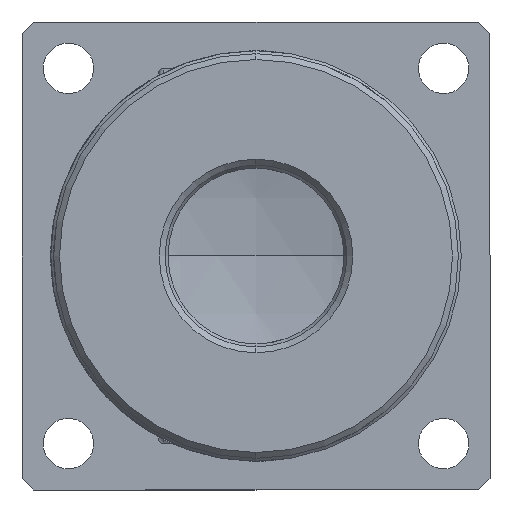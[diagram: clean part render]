
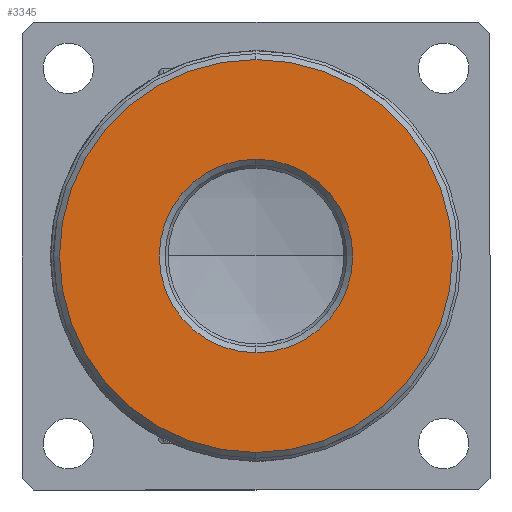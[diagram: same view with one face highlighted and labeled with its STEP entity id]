
A CAD part, left-side view. The second image highlights one B-rep face of the part: STEP entity #3345.
In plain terms, the highlighted planar face has unit normal (-1, 0, 0).
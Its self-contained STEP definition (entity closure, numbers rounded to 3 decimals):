
#536 = EDGE_CURVE ( 'NONE', #7514, #5807, #5223, .T. ) ;
#589 = VERTEX_POINT ( 'NONE', #3631 ) ;
#743 = DIRECTION ( 'NONE',  ( 1., 0., 0. ) ) ;
#1077 = FACE_OUTER_BOUND ( 'NONE', #2057, .T. ) ;
#1442 = AXIS2_PLACEMENT_3D ( 'NONE', #5382, #743, #6172 ) ;
#1644 = CARTESIAN_POINT ( 'NONE',  ( 0., 0., 0. ) ) ;
#1960 = AXIS2_PLACEMENT_3D ( 'NONE', #4403, #9806, #5172 ) ;
#1996 = AXIS2_PLACEMENT_3D ( 'NONE', #6796, #2143, #7548 ) ;
#2057 = EDGE_LOOP ( 'NONE', ( #3443, #7683 ) ) ;
#2143 = DIRECTION ( 'NONE',  ( 1., 0., 0. ) ) ;
#2398 = CARTESIAN_POINT ( 'NONE',  ( 0., 0., 8.25 ) ) ;
#2432 = DIRECTION ( 'NONE',  ( 0., 0., -1. ) ) ;
#2539 = EDGE_CURVE ( 'NONE', #6617, #589, #6966, .T. ) ;
#3250 = ORIENTED_EDGE ( 'NONE', *, *, #8054, .T. ) ;
#3345 = ADVANCED_FACE ( 'NONE', ( #7254, #1077 ), #5341, .F. ) ;
#3443 = ORIENTED_EDGE ( 'NONE', *, *, #2539, .T. ) ;
#3447 = EDGE_CURVE ( 'NONE', #589, #6617, #6444, .T. ) ;
#3631 = CARTESIAN_POINT ( 'NONE',  ( 0., 0., 16.75 ) ) ;
#4403 = CARTESIAN_POINT ( 'NONE',  ( 0., 0., 0. ) ) ;
#4487 = DIRECTION ( 'NONE',  ( -1., 0., 0. ) ) ;
#5172 = DIRECTION ( 'NONE',  ( 0., 0., -1. ) ) ;
#5223 = CIRCLE ( 'NONE', #1996, 8.25 ) ;
#5341 = PLANE ( 'NONE',  #1442 ) ;
#5382 = CARTESIAN_POINT ( 'NONE',  ( 0., 7.75, 0. ) ) ;
#5798 = CARTESIAN_POINT ( 'NONE',  ( 0., 0., -16.75 ) ) ;
#5807 = VERTEX_POINT ( 'NONE', #2398 ) ;
#6172 = DIRECTION ( 'NONE',  ( 0., 0., -1. ) ) ;
#6444 = CIRCLE ( 'NONE', #7688, 16.75 ) ;
#6617 = VERTEX_POINT ( 'NONE', #5798 ) ;
#6796 = CARTESIAN_POINT ( 'NONE',  ( 0., 0., 0. ) ) ;
#6957 = EDGE_LOOP ( 'NONE', ( #3250, #10095 ) ) ;
#6966 = CIRCLE ( 'NONE', #7802, 16.75 ) ;
#7075 = DIRECTION ( 'NONE',  ( -1., 0., 0. ) ) ;
#7254 = FACE_BOUND ( 'NONE', #6957, .T. ) ;
#7514 = VERTEX_POINT ( 'NONE', #8640 ) ;
#7548 = DIRECTION ( 'NONE',  ( 0., 0., -1. ) ) ;
#7683 = ORIENTED_EDGE ( 'NONE', *, *, #3447, .T. ) ;
#7688 = AXIS2_PLACEMENT_3D ( 'NONE', #1644, #7075, #2432 ) ;
#7802 = AXIS2_PLACEMENT_3D ( 'NONE', #9120, #4487, #9910 ) ;
#8054 = EDGE_CURVE ( 'NONE', #5807, #7514, #8831, .T. ) ;
#8640 = CARTESIAN_POINT ( 'NONE',  ( 0., 0., -8.25 ) ) ;
#8831 = CIRCLE ( 'NONE', #1960, 8.25 ) ;
#9120 = CARTESIAN_POINT ( 'NONE',  ( 0., 0., 0. ) ) ;
#9806 = DIRECTION ( 'NONE',  ( 1., 0., 0. ) ) ;
#9910 = DIRECTION ( 'NONE',  ( 0., 0., -1. ) ) ;
#10095 = ORIENTED_EDGE ( 'NONE', *, *, #536, .T. ) ;
